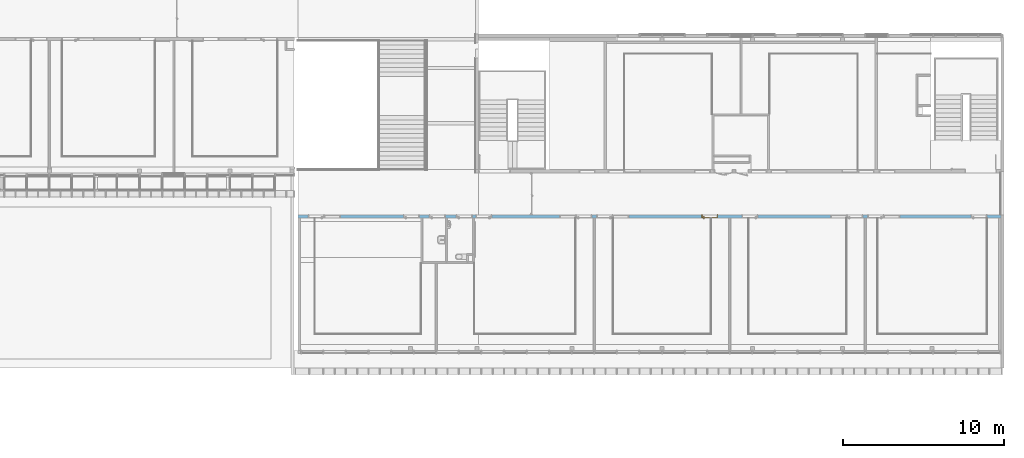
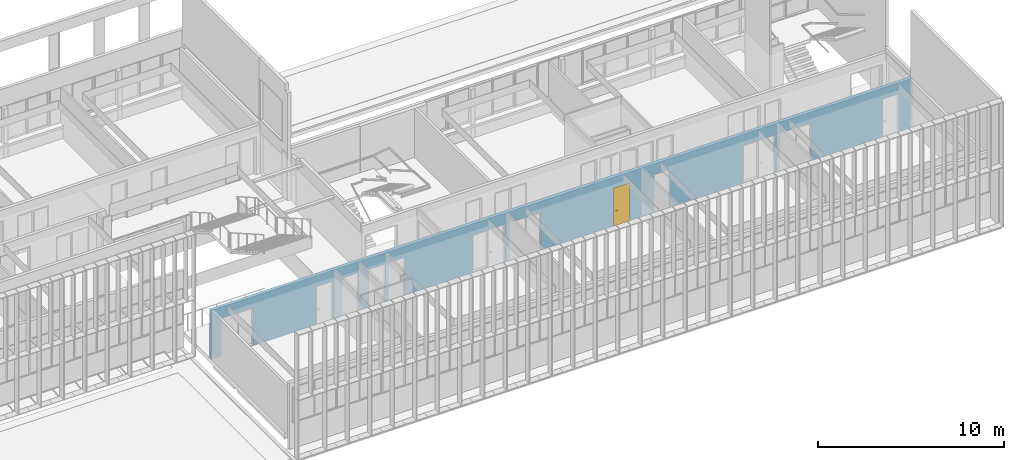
# One storey, part 70 of 106: 1 door, 18 openings, plus 1 element that does not belong to this part.
"""IFC2X3 building model written with IfcOpenShell, lengths in centimetres."""

from ifc_helpers import new_model, entity, si_unit, converted_unit, derived_unit, direction, frame, frame_2d, origin, place, context, subcontext, project, spatial, polyline, rectangle, extrude, clip, bounded_halfspace, faceted_brep, source, transform, mapped, material, material_list, layer, layer_set, layer_usage, type_object, type_shapes, element, fill, save


model = new_model("IFC2X3")

# Units and contexts
model_context = context("Model", 3, precision=0.001, world=origin(), true_north=direction((6.12303176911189e-17, 1.0)))
body_context = subcontext(model_context, "Body", "Model", "MODEL_VIEW")
ifc_project = project(units=[si_unit("LENGTHUNIT", "METRE", prefix="CENTI"), si_unit("AREAUNIT", "SQUARE_METRE"), si_unit("VOLUMEUNIT", "CUBIC_METRE"), converted_unit("PLANEANGLEUNIT", "DEGREE", entity("IfcRatioMeasure", 0.0174532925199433), si_unit("PLANEANGLEUNIT", "RADIAN"), dimensions=[0, 0, 0, 0, 0, 0, 0]), si_unit("MASSUNIT", "GRAM", prefix="KILO"), derived_unit("MASSDENSITYUNIT", [(si_unit("MASSUNIT", "GRAM", prefix="KILO"), 1), (si_unit("LENGTHUNIT", "METRE"), -3)]), si_unit("TIMEUNIT", "SECOND"), si_unit("FREQUENCYUNIT", "HERTZ"), si_unit("THERMODYNAMICTEMPERATUREUNIT", "DEGREE_CELSIUS"), derived_unit("THERMALTRANSMITTANCEUNIT", [(si_unit("MASSUNIT", "GRAM", prefix="KILO"), 1), (si_unit("THERMODYNAMICTEMPERATUREUNIT", "KELVIN"), -1), (si_unit("TIMEUNIT", "SECOND"), -3)]), derived_unit("VOLUMETRICFLOWRATEUNIT", [(si_unit("LENGTHUNIT", "METRE"), 3), (si_unit("TIMEUNIT", "SECOND"), -1)]), si_unit("ELECTRICCURRENTUNIT", "AMPERE"), si_unit("ELECTRICVOLTAGEUNIT", "VOLT"), si_unit("POWERUNIT", "WATT"), si_unit("FORCEUNIT", "NEWTON", prefix="KILO"), si_unit("ILLUMINANCEUNIT", "LUX"), si_unit("LUMINOUSFLUXUNIT", "LUMEN"), si_unit("LUMINOUSINTENSITYUNIT", "CANDELA"), derived_unit("USERDEFINED", [(si_unit("MASSUNIT", "GRAM", prefix="KILO"), -1), (si_unit("LENGTHUNIT", "METRE"), -2), (si_unit("TIMEUNIT", "SECOND"), 3), (si_unit("LUMINOUSFLUXUNIT", "LUMEN"), 1)]), derived_unit("LINEARVELOCITYUNIT", [(si_unit("LENGTHUNIT", "METRE"), 1), (si_unit("TIMEUNIT", "SECOND"), -1)]), si_unit("PRESSUREUNIT", "PASCAL"), derived_unit("USERDEFINED", [(si_unit("LENGTHUNIT", "METRE"), -2), (si_unit("MASSUNIT", "GRAM", prefix="KILO"), 1), (si_unit("TIMEUNIT", "SECOND"), -2)])], contexts=[model_context])

# Site, building, storey
site_placement = place(None, frame((-2781.94577612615, 7442.24238424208, 0.0)))
site = spatial("IfcSite", under=ifc_project, at=site_placement, Name="Default", CompositionType="ELEMENT")
building_placement = place(site_placement, origin())
building = spatial("IfcBuilding", under=site, at=building_placement, CompositionType="ELEMENT")
storey_placement = place(building_placement, frame((0.0, 0.0, 422.0)))
storey = spatial("IfcBuildingStorey", under=building, at=storey_placement, Name="Toiture - Cuisine", CompositionType="ELEMENT", Elevation=421.999999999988)

# Wall, openings, door
ifc_material_1 = material(Name="01 - Maçonnerie")
ifc_layer = layer(ifc_material_1, 20.0)
ifc_layer_set = layer_set([ifc_layer], Name="Mur de base:04 - Structure - béton - 20cm")
ifc_layer_usage = layer_usage(ifc_layer_set, "AXIS2", "NEGATIVE", 10.0)
wall_type = type_object("IfcWallType", Name="Mur de base:04 - Structure - béton - 20cm", PredefinedType="STANDARD", material=ifc_layer_set)
wall_placement = place(building_placement, frame((-4767.99987760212, -2200.15656731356, 422.0)))
wall = element("IfcWallStandardCase", 1, at=wall_placement, inside=storey, type_object=wall_type, material=ifc_layer_usage, Name="Mur de base:04 - Structure - béton - 20cm", ObjectType="Mur de base:04 - Structure - béton - 20cm", context=body_context, shape_type="Clipping", body=[
    clip(extrude(rectangle(XDim=4357.99999476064, YDim=19.9999999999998, at=frame_2d((2178.99999738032, -6.30606677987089e-14), x_axis=(-1.0, 0.0))), origin(), (0.0, 0.0, 1.0), 321.0), bounded_halfspace(frame((0.0, 10.0, 321.0), z_axis=(0.0, 0.0, -1.0), x_axis=(0.0, 1.0, 0.0)), True, frame((0.0, 10.0, 321.0)), polyline([(0.0, 0.0), (0.0, -20.0), (15.2999999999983, -20.0), (103.799999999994, -20.0), (105.799999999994, -20.0), (763.799999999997, -20.0), (773.799999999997, -20.0), (915.699994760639, -20.0), (925.699994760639, -20.0), (1082.69999476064, -20.0), (1092.69999476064, -20.0), (1720.69999476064, -20.0), (1722.69999476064, -20.0), (1832.69999476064, -20.0), (1842.69999476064, -20.0), (1952.69999476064, -20.0), (1954.69999476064, -20.0), (2560.69999476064, -20.0), (2562.69999476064, -20.0), (2672.69999476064, -20.0), (2682.69999476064, -20.0), (2792.69999476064, -20.0), (2794.69999476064, -20.0), (3400.69999476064, -20.0), (3402.69999476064, -20.0), (3512.69999476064, -20.0), (3522.69999476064, -20.0), (3592.69999476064, -20.0), (3594.69999476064, -20.0), (4270.69999476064, -20.0), (4272.69999476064, -20.0), (4342.69999476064, -20.0), (4358.0, -20.0), (4358.0, 0.0), (4356.0, 0.0), (1451.49999791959, 0.0), (1441.49999791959, 0.0), (1120.0, 0.0), (0.0, 0.0)]))),
])
opening_1_placement = place(wall_placement, origin())
element("IfcOpeningElement", 2, at=opening_1_placement, cuts=wall, Name="Mur de base:04 - Structure - béton - 20cm", ObjectType="Opening", context=body_context, shape_type="SweptSolid", body=[
    extrude(rectangle(XDim=270.0, YDim=20.0, at=frame_2d((0.0, 4.2632564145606e-14), x_axis=(0.0, 1.0))), frame((4368.0, 10.0, 135.0), z_axis=(0.0, 1.0, 0.0), x_axis=(1.0, 0.0, 0.0)), (0.0, 0.0, 1.0), 260.077533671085),
])
opening_2_placement = place(wall_placement, frame((4272.69999476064, 10.0, 0.0)))
element("IfcOpeningElement", 3, at=opening_2_placement, cuts=wall, Name="Int. Simple:PV (0.93m x 2.50m):1", ObjectType="Opening", context=body_context, shape_type="SweptSolid", body=[
    extrude(rectangle(XDim=248.500000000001, YDim=99.9999999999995, at=frame_2d((124.250000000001, 50.0), x_axis=(1.0, 0.0))), frame((0.0, 0.0, 0.0), z_axis=(0.0, -1.0, 0.0), x_axis=(0.0, 0.0, 1.0)), (0.0, 0.0, 1.0), 20.0),
])
opening_3_placement = place(wall_placement, frame((3632.69999476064, 10.0, 0.0)))
element("IfcOpeningElement", 4, at=opening_3_placement, cuts=wall, Name="Int. Simple:PV (0.93m x 2.50m):1", ObjectType="Opening", context=body_context, shape_type="SweptSolid", body=[
    extrude(rectangle(XDim=248.500000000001, YDim=99.9999999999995, at=frame_2d((124.250000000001, 49.9999999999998), x_axis=(1.0, 0.0))), frame((0.0, 0.0, 0.0), z_axis=(0.0, -1.0, 0.0), x_axis=(0.0, 0.0, 1.0)), (0.0, 0.0, 1.0), 20.0),
])
opening_4_placement = place(wall_placement, frame((3502.69999476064, 10.0, 0.0)))
element("IfcOpeningElement", 5, at=opening_4_placement, cuts=wall, Name="Int. Simple:PV (0.93m x 2.50m):1", ObjectType="Opening", context=body_context, shape_type="SweptSolid", body=[
    extrude(rectangle(XDim=248.500000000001, YDim=99.9999999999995, at=frame_2d((124.250000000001, 49.9999999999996), x_axis=(1.0, 0.0))), frame((0.0, 0.0, 0.0), z_axis=(0.0, -1.0, 0.0), x_axis=(0.0, 0.0, 1.0)), (0.0, 0.0, 1.0), 20.0),
])
opening_5_placement = place(wall_placement, frame((2852.69999476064, 10.0, 0.0)))
element("IfcOpeningElement", 6, at=opening_5_placement, cuts=wall, Name="Int. Simple:PV (0.93m x 2.50m):1", ObjectType="Opening", context=body_context, shape_type="SweptSolid", body=[
    extrude(rectangle(XDim=248.500000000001, YDim=99.9999999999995, at=frame_2d((124.250000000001, 49.9999999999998), x_axis=(1.0, 0.0))), frame((0.0, 0.0, 0.0), z_axis=(0.0, -1.0, 0.0), x_axis=(0.0, 0.0, 1.0)), (0.0, 0.0, 1.0), 20.0),
])
opening_6_placement = place(wall_placement, frame((2602.69999476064, 10.0, 0.0)))
opening_6 = element("IfcOpeningElement", 7, at=opening_6_placement, cuts=wall, Name="Int. Simple:PV (0.93m x 2.50m):1", ObjectType="Opening", context=body_context, shape_type="SweptSolid", body=[
    extrude(rectangle(XDim=248.500000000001, YDim=99.9999999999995, at=frame_2d((124.250000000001, 49.9999999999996), x_axis=(1.0, 0.0))), frame((0.0, 0.0, 0.0), z_axis=(0.0, -1.0, 0.0), x_axis=(0.0, 0.0, 1.0)), (0.0, 0.0, 1.0), 20.0),
])
opening_7_placement = place(wall_placement, frame((1952.69999476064, 10.0, 0.0)))
element("IfcOpeningElement", 8, at=opening_7_placement, cuts=wall, Name="Int. Simple:PV (0.93m x 2.50m):1", ObjectType="Opening", context=body_context, shape_type="SweptSolid", body=[
    extrude(rectangle(XDim=248.500000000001, YDim=99.9999999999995, at=frame_2d((124.250000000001, 49.9999999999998), x_axis=(1.0, 0.0))), frame((0.0, 0.0, 0.0), z_axis=(0.0, -1.0, 0.0), x_axis=(0.0, 0.0, 1.0)), (0.0, 0.0, 1.0), 20.0),
])
opening_8_placement = place(wall_placement, frame((1822.69999476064, 10.0, 0.0)))
element("IfcOpeningElement", 9, at=opening_8_placement, cuts=wall, Name="Int. Simple:PV (0.93m x 2.50m):1", ObjectType="Opening", context=body_context, shape_type="SweptSolid", body=[
    extrude(rectangle(XDim=248.500000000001, YDim=99.9999999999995, at=frame_2d((124.250000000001, 49.9999999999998), x_axis=(1.0, 0.0))), frame((0.0, 0.0, 0.0), z_axis=(0.0, -1.0, 0.0), x_axis=(0.0, 0.0, 1.0)), (0.0, 0.0, 1.0), 20.0),
])
opening_9_placement = place(wall_placement, frame((1202.69999476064, 10.0, 0.0)))
element("IfcOpeningElement", 10, at=opening_9_placement, cuts=wall, Name="Int. Simple:PV (0.93m x 2.50m):1", ObjectType="Opening", context=body_context, shape_type="SweptSolid", body=[
    extrude(rectangle(XDim=248.500000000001, YDim=99.9999999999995, at=frame_2d((124.250000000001, 49.9999999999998), x_axis=(1.0, 0.0))), frame((0.0, 0.0, 0.0), z_axis=(0.0, -1.0, 0.0), x_axis=(0.0, 0.0, 1.0)), (0.0, 0.0, 1.0), 20.0),
])
opening_10_placement = place(wall_placement, frame((1081.19999476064, 10.0, 0.0)))
element("IfcOpeningElement", 11, at=opening_10_placement, cuts=wall, Name="Int. Simple:PP simple (0.93m x 2.50m):1", ObjectType="Opening", context=body_context, shape_type="SweptSolid", body=[
    extrude(rectangle(XDim=248.500000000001, YDim=99.9999999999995, at=frame_2d((124.250000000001, 49.9999999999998), x_axis=(1.0, 0.0))), frame((0.0, 0.0, 0.0), z_axis=(0.0, -1.0, 0.0), x_axis=(0.0, 0.0, 1.0)), (0.0, 0.0, 1.0), 20.0),
])
opening_11_placement = place(wall_placement, frame((753.799999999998, 10.0, 0.0)))
element("IfcOpeningElement", 12, at=opening_11_placement, cuts=wall, Name="Int. Simple:PV (0.93m x 2.50m):1", ObjectType="Opening", context=body_context, shape_type="SweptSolid", body=[
    extrude(rectangle(XDim=248.500000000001, YDim=99.9999999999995, at=frame_2d((124.250000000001, 50.0), x_axis=(1.0, 0.0))), frame((0.0, 0.0, 0.0), z_axis=(0.0, -1.0, 0.0), x_axis=(0.0, 0.0, 1.0)), (0.0, 0.0, 1.0), 20.0),
])
opening_12_placement = place(wall_placement, frame((163.799999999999, 10.0, 0.0)))
element("IfcOpeningElement", 13, at=opening_12_placement, cuts=wall, Name="Int. Simple:PV (0.93m x 2.50m):1", ObjectType="Opening", context=body_context, shape_type="SweptSolid", body=[
    extrude(rectangle(XDim=248.500000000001, YDim=99.9999999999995, at=frame_2d((124.250000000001, 49.9999999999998), x_axis=(1.0, 0.0))), frame((0.0, 0.0, 0.0), z_axis=(0.0, -1.0, 0.0), x_axis=(0.0, 0.0, 1.0)), (0.0, 0.0, 1.0), 20.0),
])
opening_13_placement = place(wall_placement, frame((263.799999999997, 10.0, 0.0)))
element("IfcOpeningElement", 14, at=opening_13_placement, cuts=wall, Name="châssis intérieur vitré:châssis intérieur vitré (h=270) R+1:1", ObjectType="Opening", context=body_context, shape_type="SweptSolid", body=[
    extrude(rectangle(XDim=250.0, YDim=99.9999999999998, at=frame_2d((125.0, 49.9999999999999), x_axis=(1.0, 0.0))), frame((0.0, 0.0, 0.0), z_axis=(0.0, -1.0, 0.0), x_axis=(0.0, 0.0, 1.0)), (0.0, 0.0, 1.0), 20.0),
])
opening_14_placement = place(wall_placement, frame((1722.69999476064, 10.0, 0.0)))
element("IfcOpeningElement", 15, at=opening_14_placement, cuts=wall, Name="châssis intérieur vitré:châssis intérieur vitré (h=270) R+1:1", ObjectType="Opening", context=body_context, shape_type="SweptSolid", body=[
    extrude(rectangle(XDim=250.0, YDim=99.9999999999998, at=frame_2d((125.0, 49.9999999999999), x_axis=(1.0, 0.0))), frame((0.0, 0.0, 0.0), z_axis=(0.0, -1.0, 0.0), x_axis=(0.0, 0.0, 1.0)), (0.0, 0.0, 1.0), 20.0),
])
opening_15_placement = place(wall_placement, frame((2052.69999476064, 10.0, 0.0)))
element("IfcOpeningElement", 16, at=opening_15_placement, cuts=wall, Name="châssis intérieur vitré:châssis intérieur vitré (h=270) R+1:1", ObjectType="Opening", context=body_context, shape_type="SweptSolid", body=[
    extrude(rectangle(XDim=250.0, YDim=99.9999999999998, at=frame_2d((125.0, 49.9999999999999), x_axis=(1.0, 0.0))), frame((0.0, 0.0, 0.0), z_axis=(0.0, -1.0, 0.0), x_axis=(0.0, 0.0, 1.0)), (0.0, 0.0, 1.0), 20.0),
])
opening_16_placement = place(wall_placement, frame((3402.69999476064, 10.0, 0.0)))
element("IfcOpeningElement", 17, at=opening_16_placement, cuts=wall, Name="châssis intérieur vitré:châssis intérieur vitré (h=270) R+1:1", ObjectType="Opening", context=body_context, shape_type="SweptSolid", body=[
    extrude(rectangle(XDim=250.0, YDim=99.9999999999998, at=frame_2d((125.0, 49.9999999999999), x_axis=(1.0, 0.0))), frame((0.0, 0.0, 0.0), z_axis=(0.0, -1.0, 0.0), x_axis=(0.0, 0.0, 1.0)), (0.0, 0.0, 1.0), 20.0),
])
opening_17_placement = place(wall_placement, frame((3732.69999476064, 10.0, 0.0)))
element("IfcOpeningElement", 18, at=opening_17_placement, cuts=wall, Name="châssis intérieur vitré:châssis intérieur vitré (h=270) R+1:1", ObjectType="Opening", context=body_context, shape_type="SweptSolid", body=[
    extrude(rectangle(XDim=250.0, YDim=99.9999999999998, at=frame_2d((125.0, 49.9999999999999), x_axis=(1.0, 0.0))), frame((0.0, 0.0, 0.0), z_axis=(0.0, -1.0, 0.0), x_axis=(0.0, 0.0, 1.0)), (0.0, 0.0, 1.0), 20.0),
])
opening_18_placement = place(wall_placement, frame((914.199994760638, 10.0, 0.0)))
element("IfcOpeningElement", 19, at=opening_18_placement, cuts=wall, Name="Int. Simple:PP simple (0.93m x 2.50m):1", ObjectType="Opening", context=body_context, shape_type="SweptSolid", body=[
    extrude(rectangle(XDim=248.500000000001, YDim=99.9999999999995, at=frame_2d((124.250000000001, 50.0), x_axis=(1.0, 0.0))), frame((0.0, 0.0, 0.0), z_axis=(0.0, -1.0, 0.0), x_axis=(0.0, 0.0, 1.0)), (0.0, 0.0, 1.0), 20.0),
])
ifc_material_2 = material(Name="Finition Peinture - Blanc satiné")
ifc_material_3 = material(Name="Bois - Panneau de porte")
ifc_material_4 = material(Name="Bois - Cadre de porte")
ifc_material_list_1 = material_list([ifc_material_2, ifc_material_3, ifc_material_4])
ifc_material_list_2 = material_list([ifc_material_2, ifc_material_3, ifc_material_4])
door_style = type_object("IfcDoorStyle", Name="PV (0.93m x 2.50m)", ConstructionType="NOTDEFINED", OperationType="SINGLE_SWING_LEFT", ParameterTakesPrecedence=False, Sizeable=False, material=ifc_material_list_2)
shared_shape = source(origin(), body_context, "Body", "Brep", [
    faceted_brep([(10.5352761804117, -0.500000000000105, 86.6003983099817), (11.5000000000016, -0.500000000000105, 87.0), (11.5000000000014, -0.500000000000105, 108.0), (10.5352761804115, -0.500000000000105, 108.399601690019), (9.50000000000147, -0.500000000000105, 108.535898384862), (8.46472381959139, -0.500000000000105, 108.399601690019), (7.50000000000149, -0.500000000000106, 108.0), (7.50000000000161, -0.500000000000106, 87.0), (8.46472381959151, -0.500000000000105, 86.6003983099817), (9.50000000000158, -0.500000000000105, 86.464101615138), (10.5352761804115, 0.0, 108.399601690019), (11.5000000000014, 0.0, 108.0), (11.5000000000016, 0.0, 87.0), (10.5352761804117, 0.0, 86.6003983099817), (9.50000000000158, 0.0, 86.464101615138), (8.46472381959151, 0.0, 86.6003983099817), (7.50000000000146, 0.0, 87.0), (7.50000000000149, 0.0, 108.0), (8.46472381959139, 0.0, 108.399601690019), (9.50000000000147, 0.0, 108.535898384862)], [[[0, 1, 2, 3, 4, 5, 6, 7, 8, 9]], [[10, 11, 12, 13, 14, 15, 16, 17, 18, 19]], [[16, 15, 8, 7]], [[8, 15, 14, 9]], [[14, 13, 0, 9]], [[13, 12, 1, 0]], [[2, 1, 12, 11]], [[11, 10, 3, 2]], [[3, 10, 19, 4]], [[19, 18, 5, 4]], [[18, 17, 6, 5]], [[7, 6, 17, 16]]]),
    faceted_brep([(10.5352761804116, 4.0, 86.6003983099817), (11.5000000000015, 4.0, 87.0), (11.5000000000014, 4.0, 108.0), (10.5352761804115, 4.0, 108.399601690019), (9.50000000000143, 4.0, 108.535898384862), (8.46472381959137, 4.0, 108.399601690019), (7.50000000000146, 4.0, 108.0), (7.50000000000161, 4.0, 87.0), (8.46472381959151, 4.0, 86.6003983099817), (9.50000000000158, 4.0, 86.464101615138), (10.5352761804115, 4.49999999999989, 108.399601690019), (11.5000000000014, 4.49999999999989, 108.0), (11.5000000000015, 4.49999999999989, 87.0), (10.5352761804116, 4.49999999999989, 86.6003983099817), (9.50000000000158, 4.49999999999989, 86.464101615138), (8.46472381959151, 4.49999999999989, 86.6003983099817), (7.50000000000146, 4.49999999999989, 87.0), (7.50000000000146, 4.49999999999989, 108.0), (8.46472381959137, 4.49999999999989, 108.399601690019), (9.50000000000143, 4.49999999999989, 108.535898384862)], [[[0, 1, 2, 3, 4, 5, 6, 7, 8, 9]], [[10, 11, 12, 13, 14, 15, 16, 17, 18, 19]], [[11, 10, 3, 2]], [[3, 10, 19, 4]], [[19, 18, 5, 4]], [[18, 17, 6, 5]], [[7, 6, 17, 16]], [[16, 15, 8, 7]], [[8, 15, 14, 9]], [[14, 13, 0, 9]], [[13, 12, 1, 0]], [[2, 1, 12, 11]]]),
    faceted_brep([(9.29747013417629, -0.500000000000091, 100.778044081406), (9.70252986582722, -0.500000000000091, 100.778044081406), (10.1000000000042, -0.500000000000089, 100.699999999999), (10.1000000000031, -0.500000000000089, 99.3000000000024), (9.7025298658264, -0.500000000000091, 99.2219559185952), (9.29747013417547, -0.500000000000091, 99.221955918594), (8.8999999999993, -0.500000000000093, 99.2999999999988), (8.89999999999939, -0.500000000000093, 100.7), (8.89999999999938, -3.26509507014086, 100.7), (9.29747013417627, -3.10045754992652, 100.778044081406), (10.9023585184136, -4.70534593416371, 100.778044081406), (11.0701397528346, -4.30028620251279, 100.778044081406), (9.7025298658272, -2.93267631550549, 100.778044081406), (10.1000000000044, -2.76803879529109, 100.7), (10.1000000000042, -2.76803879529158, 99.3000000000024), (9.7025298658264, -2.93267631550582, 99.2219559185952), (11.0701397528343, -4.30028620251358, 99.2219559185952), (10.9023585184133, -4.70534593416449, 99.221955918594), (9.29747013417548, -3.10045754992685, 99.221955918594), (8.89999999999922, -3.26509507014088, 99.2999999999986), (10.7377209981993, -5.10281606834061, 100.7), (11.2347772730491, -3.90281606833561, 100.7), (11.2347772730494, -3.90281606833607, 99.3000000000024), (10.7377209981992, -5.10281606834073, 99.2999999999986), (19.5018640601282, -5.1028160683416, 99.2999999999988), (19.5018640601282, -4.70534593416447, 99.221955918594), (19.5018640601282, -4.30028620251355, 99.2219559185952), (19.5018640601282, -3.90281606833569, 99.3000000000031), (19.5018640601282, -3.90281606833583, 100.7), (19.5018640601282, -4.30028620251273, 100.778044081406), (19.5018640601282, -4.70534593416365, 100.778044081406), (19.5018640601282, -5.10281606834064, 100.699999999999), (14.7307697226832, -5.10281606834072, 100.7), (15.2860019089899, -4.5028160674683, 100.78786867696), (15.3683206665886, -3.9028160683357, 100.7), (15.3683206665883, -3.90281606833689, 99.3000000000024), (15.2860018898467, -4.50281607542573, 99.2121313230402), (14.7307700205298, -5.10281606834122, 99.2999999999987)], [[[0, 1, 2, 3, 4, 5, 6, 7]], [[8, 9, 0, 7]], [[9, 10, 11, 12, 1, 0]], [[12, 13, 2, 1]], [[3, 2, 13, 14]], [[14, 15, 4, 3]], [[15, 16, 17, 18, 5, 4]], [[18, 19, 6, 5]], [[7, 6, 19, 8]], [[20, 10, 9, 8]], [[11, 21, 13, 12]], [[14, 13, 21, 22]], [[22, 16, 15, 14]], [[17, 23, 19, 18]], [[8, 19, 23, 20]], [[24, 25, 26, 27, 28, 29, 30, 31]], [[32, 30, 33]], [[31, 30, 32]], [[10, 20, 32]], [[33, 34, 11]], [[21, 11, 34]], [[34, 29, 28]], [[30, 29, 33]], [[29, 34, 33]], [[10, 32, 33]], [[10, 33, 11]], [[22, 21, 34, 28, 27, 35]], [[35, 26, 36]], [[37, 36, 25]], [[22, 35, 16]], [[35, 27, 26]], [[24, 37, 25]], [[23, 17, 37]], [[37, 17, 36]], [[17, 16, 36]], [[16, 35, 36]], [[25, 36, 26]], [[20, 23, 37, 24, 31, 32]]]),
    faceted_brep([(9.29747013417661, 4.49999999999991, 100.778044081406), (8.89999999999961, 4.4999999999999, 100.7), (8.89999999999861, 4.4999999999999, 99.2999999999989), (9.29747013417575, 4.49999999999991, 99.221955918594), (9.70252986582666, 4.49999999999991, 99.2219559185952), (10.1000000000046, 4.49999999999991, 99.3000000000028), (10.1000000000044, 4.49999999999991, 100.7), (9.70252986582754, 4.49999999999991, 100.778044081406), (10.1000000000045, 6.7485204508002, 99.3000000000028), (10.1000000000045, 6.74852045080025, 100.7), (9.70252986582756, 6.91315797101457, 100.778044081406), (11.083890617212, 8.29451872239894, 100.778044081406), (10.916109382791, 8.69957845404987, 100.778044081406), (9.29747013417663, 7.0809392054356, 100.778044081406), (8.89999999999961, 7.24557672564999, 100.7), (8.89999999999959, 7.2455767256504, 99.2999999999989), (9.29747013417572, 7.08093920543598, 99.221955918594), (10.9161093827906, 8.69957845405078, 99.221955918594), (11.0838906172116, 8.29451872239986, 99.2219559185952), (9.70252986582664, 6.91315797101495, 99.2219559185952), (11.2485281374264, 7.89704858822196, 99.3000000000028), (11.2485281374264, 7.89704858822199, 100.7), (10.7514718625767, 9.09704858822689, 100.7), (10.7514718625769, 9.0970485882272, 99.2999999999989), (19.5045783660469, 7.89704858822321, 99.3000000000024), (19.5045783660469, 8.29451872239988, 99.2219559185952), (19.5045783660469, 8.6995784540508, 99.221955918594), (19.5045783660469, 9.09704858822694, 99.2999999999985), (19.5045783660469, 9.09704858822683, 100.7), (19.5045783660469, 8.69957845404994, 100.778044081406), (19.5045783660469, 8.29451872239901, 100.778044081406), (19.5045783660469, 7.89704858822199, 100.7), (15.3765520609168, 7.89704858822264, 99.3000000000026), (15.3765532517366, 7.89704858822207, 100.7), (15.294234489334, 8.49704858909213, 100.78786867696), (14.7445205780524, 9.09704858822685, 100.7), (14.7445204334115, 9.09704858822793, 99.2999999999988), (15.2942345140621, 8.49704858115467, 99.2121313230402)], [[[0, 1, 2, 3, 4, 5, 6, 7]], [[6, 5, 8, 9]], [[9, 10, 7, 6]], [[10, 11, 12, 13, 0, 7]], [[13, 14, 1, 0]], [[2, 1, 14, 15]], [[15, 16, 3, 2]], [[16, 17, 18, 19, 4, 3]], [[19, 8, 5, 4]], [[9, 8, 20, 21]], [[21, 11, 10, 9]], [[12, 22, 14, 13]], [[15, 14, 22, 23]], [[23, 17, 16, 15]], [[18, 20, 8, 19]], [[24, 25, 26, 27, 28, 29, 30, 31]], [[21, 20, 32, 24, 31, 33]], [[33, 30, 34]], [[35, 34, 29]], [[21, 33, 11]], [[33, 31, 30]], [[28, 35, 29]], [[22, 12, 35]], [[35, 12, 34]], [[12, 11, 34]], [[11, 33, 34]], [[29, 34, 30]], [[22, 35, 28, 27, 36, 23]], [[36, 26, 37]], [[27, 26, 36]], [[17, 23, 36]], [[37, 32, 18]], [[20, 18, 32]], [[32, 25, 24]], [[26, 25, 37]], [[25, 32, 37]], [[17, 36, 37]], [[17, 37, 18]]]),
    faceted_brep([(3.50000000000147, 4.0, 245.0), (96.5000000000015, 4.0, 245.0), (96.5000000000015, 4.0, 0.0), (3.50000000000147, 4.0, 0.0), (3.50000000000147, 0.0, 245.0), (3.50000000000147, 0.0, 0.0), (96.5000000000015, 0.0, 0.0), (96.5000000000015, 0.0, 245.0)], [[[0, 1, 2, 3]], [[4, 5, 6, 7]], [[1, 0, 4, 7]], [[2, 1, 7, 6]], [[3, 2, 6, 5]], [[0, 3, 5, 4]]]),
    faceted_brep([(0.0, 20.0, 0.0), (-1.50000000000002, 20.0, 0.0), (-1.50000000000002, 20.5000000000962, 0.0), (5.0, 20.5000000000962, 0.0), (5.0, 4.0, 0.0), (3.50000000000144, 4.0, 0.0), (3.50000000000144, -0.500000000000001, 0.0), (-1.50000000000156, -0.500000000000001, 0.0), (-1.50000000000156, 0.0, 0.0), (0.0, 0.0, 0.0), (0.0, 20.0, 248.500000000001), (100.0, 20.0, 248.500000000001), (100.0, 20.0, 0.0), (101.5, 20.0, 0.0), (101.5, 20.0, 250.0), (-1.50000000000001, 20.0, 250.0), (-1.50000000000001, 20.5000000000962, 250.0), (101.5, 20.5000000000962, 250.0), (101.5, 20.5000000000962, 0.0), (95.0, 20.5000000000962, 0.0), (95.0, 20.5000000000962, 243.5), (5.0, 20.5000000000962, 243.5), (5.0, 4.0, 243.5), (95.0, 4.0, 243.5), (95.0, 4.0, 0.0), (96.499999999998, 4.0, 0.0), (96.499999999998, 4.0, 245.0), (3.50000000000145, 4.0, 245.0), (3.50000000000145, -0.500000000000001, 245.0), (96.499999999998, -0.500000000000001, 245.0), (96.499999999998, -0.500000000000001, 0.0), (101.500000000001, -0.500000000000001, 0.0), (101.500000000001, -0.500000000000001, 250.0), (-1.50000000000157, -0.500000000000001, 250.0), (-1.50000000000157, 0.0, 250.0), (101.500000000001, 0.0, 250.0), (101.500000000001, 0.0, 0.0), (100.0, 0.0, 0.0), (100.0, 0.0, 248.500000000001), (0.0, 0.0, 248.500000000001)], [[[0, 1, 2, 3, 4, 5, 6, 7, 8, 9]], [[1, 0, 10, 11, 12, 13, 14, 15]], [[2, 1, 15, 16]], [[3, 2, 16, 17, 18, 19, 20, 21]], [[3, 21, 22, 4]], [[5, 4, 22, 23, 24, 25, 26, 27]], [[5, 27, 28, 6]], [[7, 6, 28, 29, 30, 31, 32, 33]], [[8, 7, 33, 34]], [[9, 8, 34, 35, 36, 37, 38, 39]], [[0, 9, 39, 10]], [[11, 38, 37, 12]], [[12, 37, 36, 31, 30, 25, 24, 19, 18, 13]], [[17, 14, 13, 18]], [[23, 20, 19, 24]], [[29, 26, 25, 30]], [[35, 32, 31, 36]], [[16, 15, 14, 17]], [[22, 21, 20, 23]], [[28, 27, 26, 29]], [[34, 33, 32, 35]], [[10, 39, 38, 11]]]),
])
type_shapes(door_style, [shared_shape])
door_placement = place(opening_6_placement, frame((-100.0, -20.0, 0.0)))
door = element("IfcDoor", 20, at=door_placement, inside=storey, type_object=door_style, material=ifc_material_list_1, Name="Int. Simple:PV (0.93m x 2.50m)", ObjectType="Int. Simple:PV (0.93m x 2.50m)", OverallHeight=248.500000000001, OverallWidth=99.9999999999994, context=body_context, shape_type="MappedRepresentation", body=[
    mapped(shared_shape, transform((0.0, 0.0, 0.0), scale=1.0)),
])
fill(opening_6, door)

save(model, "model.ifc")
